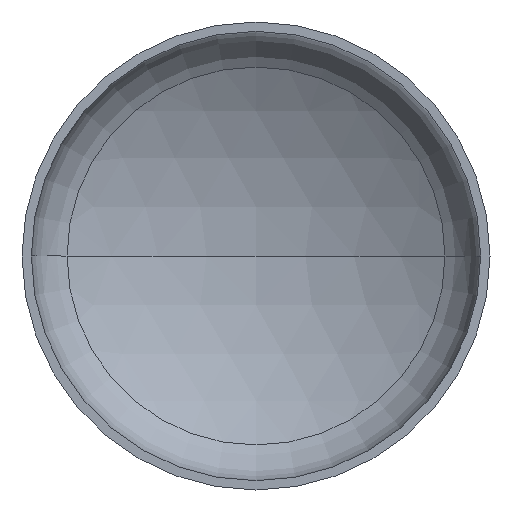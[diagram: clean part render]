
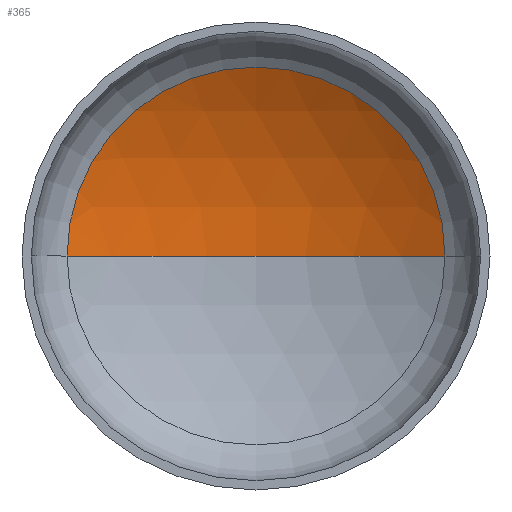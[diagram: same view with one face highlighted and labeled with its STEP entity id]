
A CAD part, front view. The second image highlights one B-rep face of the part: STEP entity #365.
In plain terms, the highlighted spherical face has radius 1040 mm.
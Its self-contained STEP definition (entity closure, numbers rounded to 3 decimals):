
#4 = AXIS2_PLACEMENT_3D ( 'NONE', #354, #326, #75 ) ;
#8 = AXIS2_PLACEMENT_3D ( 'NONE', #73, #108, #111 ) ;
#9 = EDGE_LOOP ( 'NONE', ( #187, #115, #394 ) ) ;
#17 = AXIS2_PLACEMENT_3D ( 'NONE', #198, #337, #143 ) ;
#19 = AXIS2_PLACEMENT_3D ( 'NONE', #379, #230, #399 ) ;
#62 = VERTEX_POINT ( 'NONE', #344 ) ;
#73 = CARTESIAN_POINT ( 'NONE',  ( 0., 257.652, 0. ) ) ;
#75 = DIRECTION ( 'NONE',  ( -1., 0., 0. ) ) ;
#89 = SPHERICAL_SURFACE ( 'NONE', #4, 1040. ) ;
#108 = DIRECTION ( 'NONE',  ( 0., -1., 0. ) ) ;
#111 = DIRECTION ( 'NONE',  ( 1., 0., 0. ) ) ;
#115 = ORIENTED_EDGE ( 'NONE', *, *, #347, .T. ) ;
#143 = DIRECTION ( 'NONE',  ( 1., 0., 0. ) ) ;
#186 = FACE_OUTER_BOUND ( 'NONE', #9, .T. ) ;
#187 = ORIENTED_EDGE ( 'NONE', *, *, #349, .F. ) ;
#190 = CARTESIAN_POINT ( 'NONE',  ( 524.952, 257.652, 0. ) ) ;
#198 = CARTESIAN_POINT ( 'NONE',  ( 0., -640.137, 0. ) ) ;
#230 = DIRECTION ( 'NONE',  ( 0., 0., -1. ) ) ;
#234 = VERTEX_POINT ( 'NONE', #190 ) ;
#278 = VERTEX_POINT ( 'NONE', #299 ) ;
#285 = CIRCLE ( 'NONE', #17, 1040. ) ;
#299 = CARTESIAN_POINT ( 'NONE',  ( -524.952, 257.652, 0. ) ) ;
#326 = DIRECTION ( 'NONE',  ( 0., 0., -1. ) ) ;
#337 = DIRECTION ( 'NONE',  ( 0., 0., 1. ) ) ;
#344 = CARTESIAN_POINT ( 'NONE',  ( 0., 399.863, 0. ) ) ;
#347 = EDGE_CURVE ( 'NONE', #62, #234, #401, .T. ) ;
#349 = EDGE_CURVE ( 'NONE', #62, #278, #285, .T. ) ;
#354 = CARTESIAN_POINT ( 'NONE',  ( 0., -640.137, 0. ) ) ;
#362 = EDGE_CURVE ( 'NONE', #234, #278, #393, .T. ) ;
#365 = ADVANCED_FACE ( 'NONE', ( #186 ), #89, .F. ) ;
#379 = CARTESIAN_POINT ( 'NONE',  ( 0., -640.137, 0. ) ) ;
#393 = CIRCLE ( 'NONE', #8, 524.952 ) ;
#394 = ORIENTED_EDGE ( 'NONE', *, *, #362, .T. ) ;
#399 = DIRECTION ( 'NONE',  ( -1., 0., 0. ) ) ;
#401 = CIRCLE ( 'NONE', #19, 1040. ) ;
